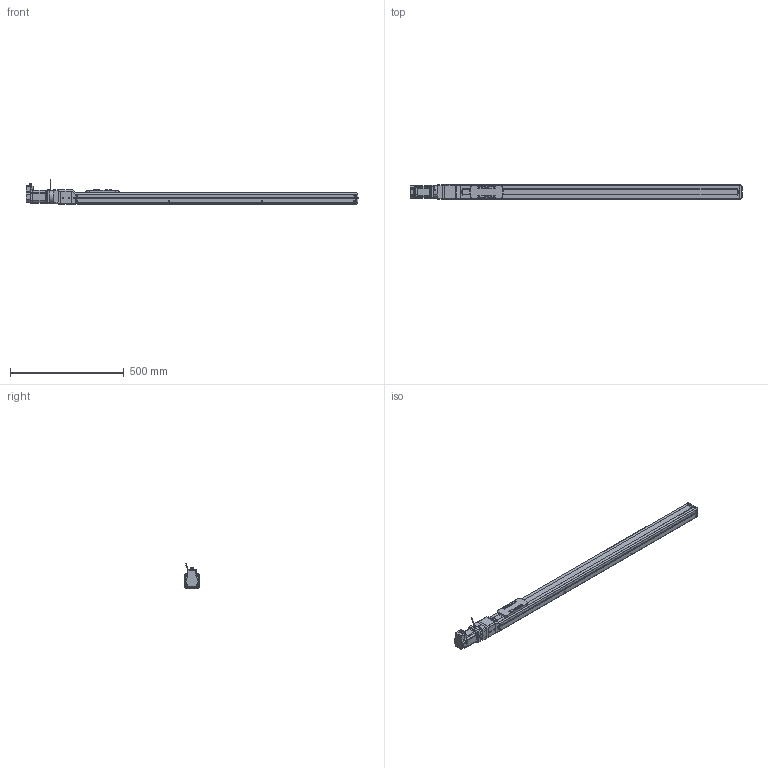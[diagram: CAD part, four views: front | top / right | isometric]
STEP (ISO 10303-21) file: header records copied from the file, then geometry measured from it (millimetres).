
FILE_DESCRIPTION(('FreeCAD Model'),'2;1');
FILE_NAME('Open CASCADE Shape Model','2023-08-03T16:32:03',('Author'),( ''),'Open CASCADE STEP processor 7.5','FreeCAD','Unknown');
FILE_SCHEMA(('AUTOMOTIVE_DESIGN { 1 0 10303 214 1 1 1 1 }'));
Length unit declared in the file: millimetre
Products named in the file (21): RMJ1211_BRK; Shapes; Shapes001; Shapes002; Shapes003; Shapes004; Shapes005; Shapes006; Shapes007; Shapes008; Shapes009; Shapes010; Shapes011; Shapes012; Body; BXW-03-10H-8_STEP; Body001; KSF6-20-1000-0-A0(0); KSF6---(Cover); KSF6-10-0050---(slider); KSF6-20-01000-A0 (01000A0No0)---(body)
Assembly tree (20 placements, depth 3):
  RMJ1211_BRK
    Shapes
    Shapes001
    Shapes002
    Shapes003
    Shapes004
    Shapes005
    Shapes006
    Shapes007
    Shapes008
    Shapes009
    Shapes010
    Shapes011
    Shapes012
    Body
    BXW-03-10H-8_STEP
    Body001
    KSF6-20-1000-0-A0(0)
      KSF6---(Cover)
      KSF6-10-0050---(slider)
      KSF6-20-01000-A0 (01000A0No0)---(body)
Bounding box: 1460.47 x 66.4 x 107.78 mm (x, y, z)
Volume: 4517314.1 mm3; surface area: 493438.7 mm2
Topology: 19 solids, 19 shells, 1906 faces, 5059 edges, 3318 vertices
Faces by surface type: plane 1259, cylinder 497, cone 91, bspline 28, torus 27, revolution 4
Full cylindrical faces by diameter (mm): 2.113 x8, 2.6 x4, 3 x5, 3.242 x5, 4.134 x4, 4.2 x7, 4.3 x1, 4.5 x2, 5 x1, 5.5 x18, 6.5 x4, 7.5 x4, 9 x1, 9.5 x12, 12 x1, 15.5 x1, 17 x1, 38.1 x1, 38.2 x1, 44 x1, 50 x2, 56.2 x1
Entity records: 135821 total; most frequent: CARTESIAN_POINT 31556, DIRECTION 19226, LINE 12457, VECTOR 12457, ORIENTED_EDGE 10070, PCURVE 10070, DEFINITIONAL_REPRESENTATION 10070, EDGE_CURVE 5035
